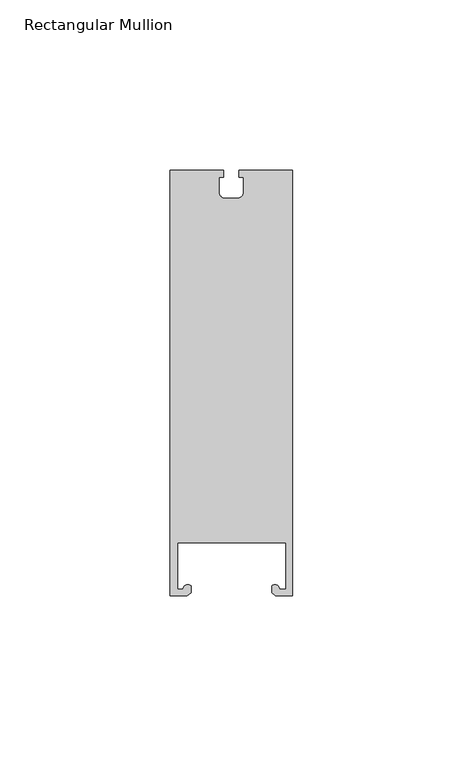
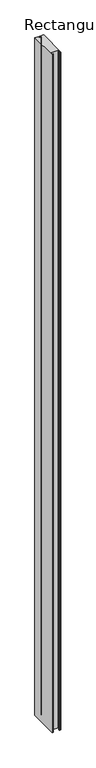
"""IFC4 building model written with IfcOpenShell, lengths in millimetres: member geometry, Rectangular Mullion : LD.1250 - right_renson."""

from ifc_helpers import new_model, si_unit, point, frame, frame_2d, origin, place, context, project, spatial, polyline, circle_curve, trimmed, segment, composite_curve, outline, extrude, source, transform, mapped, element, save


def rectangular_mullion_efb80f74(model_context):
    return source(origin(), model_context, "Body", "SweptSolid", [
        extrude(outline(composite_curve([segment(polyline([(-86.0, -126.0), (-86.0, -1.0), (-70.2489445, -1.0), (-70.2489445, -3.0843142), (-71.59041, -3.0843142), (-71.59041, -7.4667227)]), True, "CONTINUOUS"), segment(trimmed(circle_curve(frame_2d((-69.8285608, -7.4667227)), 1.7618492), [point((-71.59041, -7.4667227))], [point((-69.559877, -9.2079641))], True, "CARTESIAN"), True, "CONTINUOUS"), segment(polyline([(-69.559877, -9.2079641), (-65.9027553, -9.2079641)]), True, "CONTINUOUS"), segment(trimmed(circle_curve(frame_2d((-66.1714392, -7.4667227)), 1.7618492), [point((-65.9027553, -9.2079641))], [point((-64.40959, -7.4667227))], True, "CARTESIAN"), True, "CONTINUOUS"), segment(polyline([(-64.40959, -7.4667227), (-64.40959, -3.0843142), (-65.7510555, -3.0843142), (-65.7510555, -1.0), (-50.0, -1.0), (-50.0, -126.0), (-55.0, -126.0), (-56.1000941, -125.0769114), (-56.1000941, -123.061549)]), True, "CONTINUOUS"), segment(trimmed(circle_curve(frame_2d((-55.2049928, -123.8498072)), 1.1927101), [point((-56.1000941, -123.061549))], [point((-54.3098916, -123.061549))], False, "CARTESIAN"), True, "CONTINUOUS"), segment(polyline([(-54.3098916, -123.061549), (-53.6747557, -123.9686169), (-52.0, -123.9686169), (-52.0, -110.3621189), (-83.8636449, -110.3621189), (-83.8636449, -123.9686169), (-82.3252443, -123.9686169), (-81.6901084, -123.061549)]), True, "CONTINUOUS"), segment(trimmed(circle_curve(frame_2d((-80.7950072, -123.8498072)), 1.1927101), [point((-81.6901084, -123.061549))], [point((-79.8999059, -123.061549))], False, "CARTESIAN"), True, "CONTINUOUS"), segment(polyline([(-79.8999059, -123.061549), (-79.8999059, -125.0769114), (-81.0, -126.0), (-86.0, -126.0)]), True, "CONTINUOUS")], self_intersect=False)), frame((0.0, 0.0, -3000.0), z_axis=(0.0, 0.0, 1.0), x_axis=(1.0, 0.0, 0.0)), (0.0, 0.0, 1.0), 3000.0),
    ])


if __name__ == "__main__":
    model = new_model("IFC4")
    model_context = context("Model", 3, world=origin())
    ifc_project = project(units=[si_unit("LENGTHUNIT", "METRE", prefix="MILLI")], contexts=[model_context])
    site = spatial("IfcSite", under=ifc_project)
    building = spatial("IfcBuilding", under=site)
    placement = place(None, origin())
    rectangular_mullion_shape = rectangular_mullion_efb80f74(model_context)
    element("IfcMember", 1, ObjectType="Rectangular Mullion : LD.1250 - right_renson", at=placement, inside=building, context=model_context, shape_type="MappedRepresentation", body=[
        mapped(rectangular_mullion_shape, transform((0.0, 0.0, 0.0), x_axis=(1.0, 0.0, 0.0), y_axis=(0.0, 1.0, 0.0), z_axis=(0.0, 0.0, 1.0))),
    ])
    save(model, "model.ifc")
